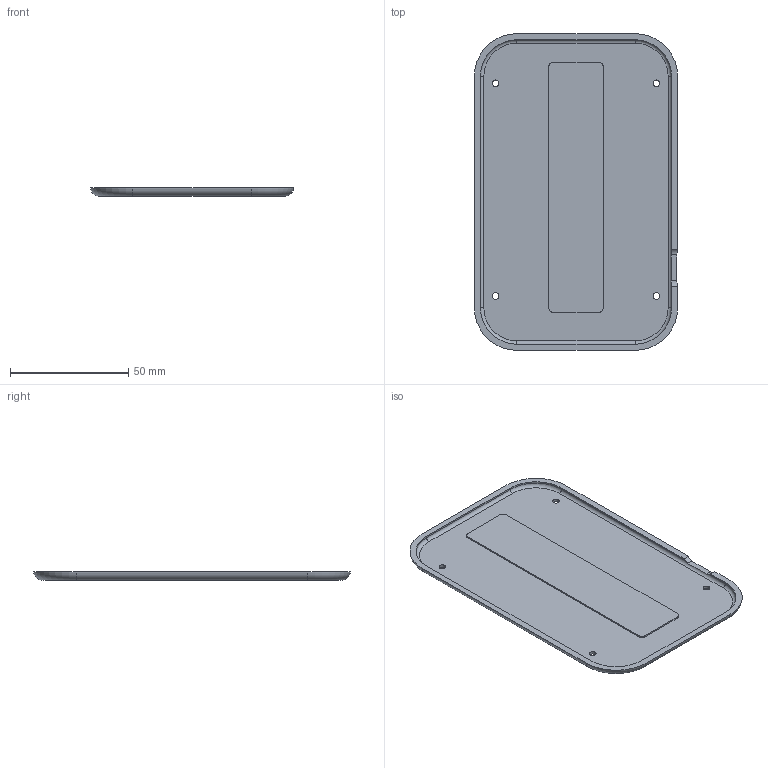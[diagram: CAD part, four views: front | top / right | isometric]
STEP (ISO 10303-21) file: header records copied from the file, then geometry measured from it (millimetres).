
FILE_DESCRIPTION(('Open CASCADE Model'),'2;1');
FILE_NAME('Open CASCADE Shape Model','2026-09-06T11:39:02',('Author'),( 'Open CASCADE'),'Open CASCADE STEP processor 7.7','Open CASCADE 7.7' ,'Unknown');
FILE_SCHEMA(('AUTOMOTIVE_DESIGN { 1 0 10303 214 1 1 1 1 }'));
Length unit declared in the file: millimetre
Products named in the file (1): Open CASCADE STEP translator 7.7 1
Bounding box: 85.98 x 133.98 x 3.7 mm (x, y, z)
Volume: 20212.1 mm3; surface area: 24088.2 mm2
Topology: 1 solids, 1 shells, 86 faces, 217 edges, 142 vertices
Faces by surface type: cylinder 42, plane 36, torus 8
Full cylindrical faces by diameter (mm): 2.8 x4, 5.3 x4
Entity records: 5643 total; most frequent: CARTESIAN_POINT 1409, DIRECTION 770, ORIENTED_EDGE 434, PCURVE 434, DEFINITIONAL_REPRESENTATION 434, LINE 380, VECTOR 380, EDGE_CURVE 217
